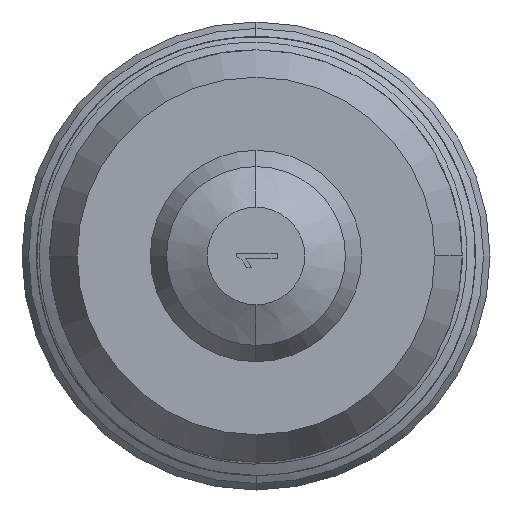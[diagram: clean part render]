
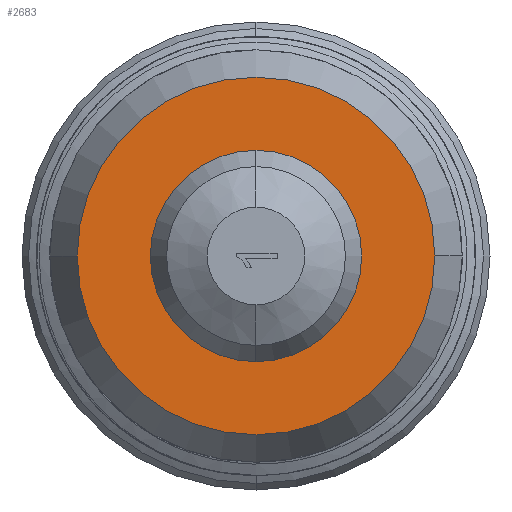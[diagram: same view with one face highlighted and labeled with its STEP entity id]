
A CAD part, left-side view. The second image highlights one B-rep face of the part: STEP entity #2683.
In plain terms, the highlighted planar face has unit normal (-1, 0, 0).
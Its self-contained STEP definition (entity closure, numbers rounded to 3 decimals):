
#40 = VERTEX_POINT ( 'NONE', #2039 ) ;
#154 = EDGE_CURVE ( 'NONE', #40, #1022, #3465, .T. ) ;
#302 = DIRECTION ( 'NONE',  ( -1., 0., 0. ) ) ;
#459 = CARTESIAN_POINT ( 'NONE',  ( -58.8, 0., -11. ) ) ;
#560 = CIRCLE ( 'NONE', #3223, 11. ) ;
#720 = EDGE_CURVE ( 'NONE', #2401, #3476, #560, .T. ) ;
#849 = AXIS2_PLACEMENT_3D ( 'NONE', #1203, #3677, #5591 ) ;
#1022 = VERTEX_POINT ( 'NONE', #3417 ) ;
#1203 = CARTESIAN_POINT ( 'NONE',  ( -58.8, 0., 0. ) ) ;
#1241 = EDGE_LOOP ( 'NONE', ( #4857, #5345 ) ) ;
#1259 = CARTESIAN_POINT ( 'NONE',  ( -58.8, 0., 11. ) ) ;
#1437 = AXIS2_PLACEMENT_3D ( 'NONE', #3237, #302, #3738 ) ;
#1829 = AXIS2_PLACEMENT_3D ( 'NONE', #5043, #2126, #5523 ) ;
#1899 = CARTESIAN_POINT ( 'NONE',  ( -58.8, 0., 0. ) ) ;
#1912 = EDGE_CURVE ( 'NONE', #3476, #2401, #2714, .T. ) ;
#1990 = CIRCLE ( 'NONE', #1437, 6.5 ) ;
#2039 = CARTESIAN_POINT ( 'NONE',  ( -58.8, 0., 6.5 ) ) ;
#2058 = DIRECTION ( 'NONE',  ( 1., 0., 0. ) ) ;
#2124 = EDGE_LOOP ( 'NONE', ( #2140, #2487 ) ) ;
#2126 = DIRECTION ( 'NONE',  ( 1., 0., 0. ) ) ;
#2140 = ORIENTED_EDGE ( 'NONE', *, *, #720, .F. ) ;
#2401 = VERTEX_POINT ( 'NONE', #1259 ) ;
#2410 = DIRECTION ( 'NONE',  ( 0., 0., 1. ) ) ;
#2487 = ORIENTED_EDGE ( 'NONE', *, *, #1912, .F. ) ;
#2683 = ADVANCED_FACE ( 'NONE', ( #2711, #3707 ), #5364, .F. ) ;
#2711 = FACE_OUTER_BOUND ( 'NONE', #2124, .T. ) ;
#2714 = CIRCLE ( 'NONE', #5467, 11. ) ;
#3223 = AXIS2_PLACEMENT_3D ( 'NONE', #1899, #5312, #2410 ) ;
#3237 = CARTESIAN_POINT ( 'NONE',  ( -58.8, 0., 0. ) ) ;
#3417 = CARTESIAN_POINT ( 'NONE',  ( -58.8, 0., -6.5 ) ) ;
#3465 = CIRCLE ( 'NONE', #849, 6.5 ) ;
#3476 = VERTEX_POINT ( 'NONE', #459 ) ;
#3677 = DIRECTION ( 'NONE',  ( -1., 0., 0. ) ) ;
#3707 = FACE_BOUND ( 'NONE', #1241, .T. ) ;
#3738 = DIRECTION ( 'NONE',  ( 0., 0., -1. ) ) ;
#4857 = ORIENTED_EDGE ( 'NONE', *, *, #5500, .F. ) ;
#4978 = CARTESIAN_POINT ( 'NONE',  ( -58.8, 0., 0. ) ) ;
#5043 = CARTESIAN_POINT ( 'NONE',  ( -58.8, 11., 0. ) ) ;
#5312 = DIRECTION ( 'NONE',  ( 1., 0., 0. ) ) ;
#5345 = ORIENTED_EDGE ( 'NONE', *, *, #154, .F. ) ;
#5364 = PLANE ( 'NONE',  #1829 ) ;
#5459 = DIRECTION ( 'NONE',  ( 0., 0., 1. ) ) ;
#5467 = AXIS2_PLACEMENT_3D ( 'NONE', #4978, #2058, #5459 ) ;
#5500 = EDGE_CURVE ( 'NONE', #1022, #40, #1990, .T. ) ;
#5523 = DIRECTION ( 'NONE',  ( 0., 0., -1. ) ) ;
#5591 = DIRECTION ( 'NONE',  ( 0., 0., -1. ) ) ;
